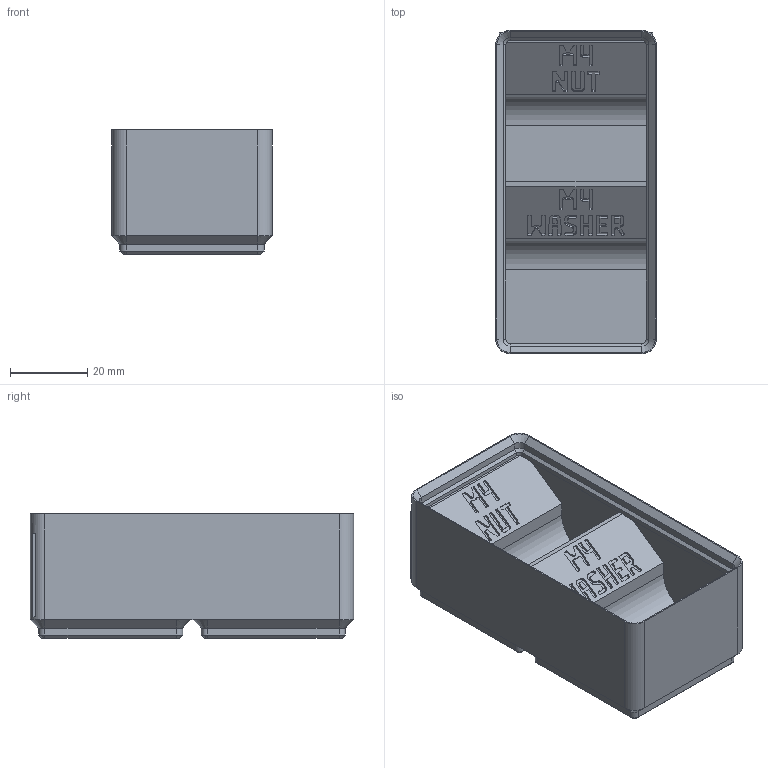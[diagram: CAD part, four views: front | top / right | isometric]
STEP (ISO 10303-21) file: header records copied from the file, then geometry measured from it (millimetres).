
FILE_DESCRIPTION(('Open CASCADE Model'),'2;1');
FILE_NAME('Open CASCADE Shape Model','2026-11-16T17:23:24',('Author'),( 'Open CASCADE'),'Open CASCADE STEP processor 8.0','build123d', 'Unknown');
FILE_SCHEMA(('AUTOMOTIVE_DESIGN { 1 0 10303 214 1 1 1 1 }'));
Products named in the file (1): COMPOUND
Bounding box: 41.5 x 83.5 x 32.1 mm (x, y, z)
Volume: 47219.9 mm3; surface area: 20724.7 mm2
Topology: 1 solids, 1 shells, 1364 faces, 3964 edges, 2622 vertices
Faces by surface type: plane 1312, cone 28, cylinder 24
Entity records: 95366 total; most frequent: CARTESIAN_POINT 16269, DIRECTION 14410, LINE 11496, VECTOR 11496, ORIENTED_EDGE 7928, PCURVE 7928, DEFINITIONAL_REPRESENTATION 7928, EDGE_CURVE 3964
